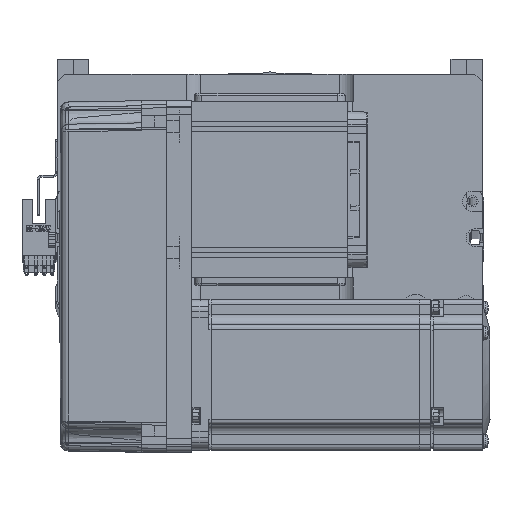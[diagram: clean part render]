
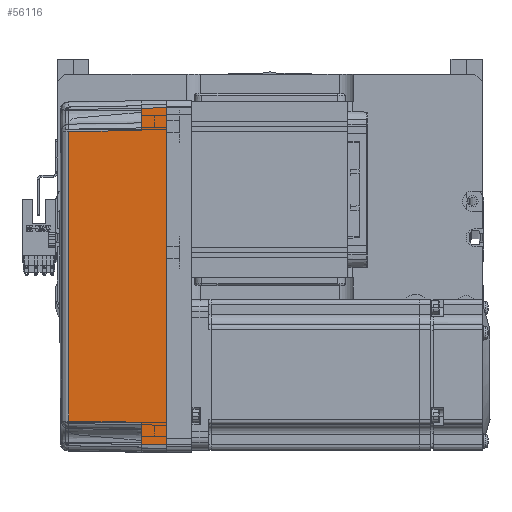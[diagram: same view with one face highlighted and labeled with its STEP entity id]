
A CAD part, top view. The second image highlights one B-rep face of the part: STEP entity #56116.
In plain terms, the highlighted planar face has unit normal (-0.018, 0, 1) as drawn and (0, -1, 0.017) by its records, which use the part's own axes.
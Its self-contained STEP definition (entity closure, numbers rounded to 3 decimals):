
#1545 = VECTOR ( 'NONE', #8886, 1000. ) ;
#4365 = PLANE ( 'NONE',  #63218 ) ;
#4603 = DIRECTION ( 'NONE',  ( -1., 0., 0. ) ) ;
#5514 = LINE ( 'NONE', #19980, #11132 ) ;
#5899 = DIRECTION ( 'NONE',  ( -0.017, 0.017, 1. ) ) ;
#7197 = CARTESIAN_POINT ( 'NONE',  ( 70., -35.825, 10. ) ) ;
#7406 = CARTESIAN_POINT ( 'NONE',  ( 0., -36., 0. ) ) ;
#7885 = B_SPLINE_CURVE_WITH_KNOTS ( 'NONE', 3,
 ( #26903, #62620, #21158, #31582 ),
 .UNSPECIFIED., .F., .F.,
 ( 4, 4 ),
 ( 0., 1. ),
 .UNSPECIFIED. ) ;
#8414 = ORIENTED_EDGE ( 'NONE', *, *, #39683, .T. ) ;
#8886 = DIRECTION ( 'NONE',  ( -0.017, -0.017, -1. ) ) ;
#10008 = LINE ( 'NONE', #7197, #44194 ) ;
#10590 = CARTESIAN_POINT ( 'NONE',  ( -58., -35.825, 10. ) ) ;
#11132 = VECTOR ( 'NONE', #4603, 1000. ) ;
#11863 = DIRECTION ( 'NONE',  ( 0.017, 0.017, 1. ) ) ;
#12099 = VECTOR ( 'NONE', #47709, 1000. ) ;
#12733 = EDGE_CURVE ( 'NONE', #18530, #53641, #19995, .T. ) ;
#13906 = VERTEX_POINT ( 'NONE', #62348 ) ;
#16046 = LINE ( 'NONE', #16546, #56713 ) ;
#16546 = CARTESIAN_POINT ( 'NONE',  ( -66.959, -35.958, 2.39 ) ) ;
#16768 = VERTEX_POINT ( 'NONE', #63542 ) ;
#18530 = VERTEX_POINT ( 'NONE', #55183 ) ;
#18567 = ORIENTED_EDGE ( 'NONE', *, *, #61219, .T. ) ;
#19111 = DIRECTION ( 'NONE',  ( 0., -1., 0.017 ) ) ;
#19980 = CARTESIAN_POINT ( 'NONE',  ( 70., -35.825, 10. ) ) ;
#19995 = LINE ( 'NONE', #44717, #29578 ) ;
#21158 = CARTESIAN_POINT ( 'NONE',  ( -19.165, -35.316, 39.181 ) ) ;
#21582 = LINE ( 'NONE', #31689, #24737 ) ;
#21995 = ORIENTED_EDGE ( 'NONE', *, *, #12733, .T. ) ;
#22604 = EDGE_CURVE ( 'NONE', #18530, #13906, #47188, .T. ) ;
#23616 = EDGE_CURVE ( 'NONE', #57810, #47004, #21582, .T. ) ;
#23778 = CARTESIAN_POINT ( 'NONE',  ( -57.495, -35.32, 38.985 ) ) ;
#24737 = VECTOR ( 'NONE', #5899, 1000. ) ;
#26179 = CARTESIAN_POINT ( 'NONE',  ( 57.495, -35.32, 38.985 ) ) ;
#26308 = ORIENTED_EDGE ( 'NONE', *, *, #39576, .T. ) ;
#26903 = CARTESIAN_POINT ( 'NONE',  ( 57.495, -35.32, 38.985 ) ) ;
#27077 = LINE ( 'NONE', #23778, #1545 ) ;
#29578 = VECTOR ( 'NONE', #41092, 1000. ) ;
#31582 = CARTESIAN_POINT ( 'NONE',  ( -57.495, -35.32, 38.985 ) ) ;
#31689 = CARTESIAN_POINT ( 'NONE',  ( 58., -35.825, 10. ) ) ;
#32970 = DIRECTION ( 'NONE',  ( -1., 0., 0. ) ) ;
#33226 = FACE_OUTER_BOUND ( 'NONE', #38063, .T. ) ;
#34457 = CARTESIAN_POINT ( 'NONE',  ( 58., -35.825, 10. ) ) ;
#34840 = DIRECTION ( 'NONE',  ( 0., -0.017, -1. ) ) ;
#35672 = VERTEX_POINT ( 'NONE', #10590 ) ;
#38063 = EDGE_LOOP ( 'NONE', ( #21995, #18567, #40866, #58940, #26308, #8414, #51500, #50905 ) ) ;
#39576 = EDGE_CURVE ( 'NONE', #44043, #35672, #27077, .T. ) ;
#39683 = EDGE_CURVE ( 'NONE', #35672, #16768, #5514, .T. ) ;
#39822 = CARTESIAN_POINT ( 'NONE',  ( 66.826, -35.825, 10. ) ) ;
#40866 = ORIENTED_EDGE ( 'NONE', *, *, #23616, .T. ) ;
#41092 = DIRECTION ( 'NONE',  ( -0.017, 0.017, 1. ) ) ;
#44043 = VERTEX_POINT ( 'NONE', #47351 ) ;
#44194 = VECTOR ( 'NONE', #32970, 1000. ) ;
#44590 = EDGE_CURVE ( 'NONE', #13906, #16768, #16046, .T. ) ;
#44717 = CARTESIAN_POINT ( 'NONE',  ( 67., -36., 0. ) ) ;
#47004 = VERTEX_POINT ( 'NONE', #26179 ) ;
#47188 = LINE ( 'NONE', #7406, #12099 ) ;
#47351 = CARTESIAN_POINT ( 'NONE',  ( -57.495, -35.32, 38.985 ) ) ;
#47709 = DIRECTION ( 'NONE',  ( -1., 0., 0. ) ) ;
#50054 = CARTESIAN_POINT ( 'NONE',  ( 70., -36., 0. ) ) ;
#50905 = ORIENTED_EDGE ( 'NONE', *, *, #22604, .F. ) ;
#51500 = ORIENTED_EDGE ( 'NONE', *, *, #44590, .F. ) ;
#53641 = VERTEX_POINT ( 'NONE', #39822 ) ;
#55183 = CARTESIAN_POINT ( 'NONE',  ( 67., -36., 0. ) ) ;
#56116 = ADVANCED_FACE ( 'NONE', ( #33226 ), #4365, .T. ) ;
#56713 = VECTOR ( 'NONE', #11863, 1000. ) ;
#57810 = VERTEX_POINT ( 'NONE', #34457 ) ;
#58940 = ORIENTED_EDGE ( 'NONE', *, *, #63722, .T. ) ;
#61219 = EDGE_CURVE ( 'NONE', #53641, #57810, #10008, .T. ) ;
#62348 = CARTESIAN_POINT ( 'NONE',  ( -67., -36., 0. ) ) ;
#62620 = CARTESIAN_POINT ( 'NONE',  ( 19.165, -35.316, 39.181 ) ) ;
#63218 = AXIS2_PLACEMENT_3D ( 'NONE', #50054, #19111, #34840 ) ;
#63542 = CARTESIAN_POINT ( 'NONE',  ( -66.826, -35.825, 10. ) ) ;
#63722 = EDGE_CURVE ( 'NONE', #47004, #44043, #7885, .T. ) ;
